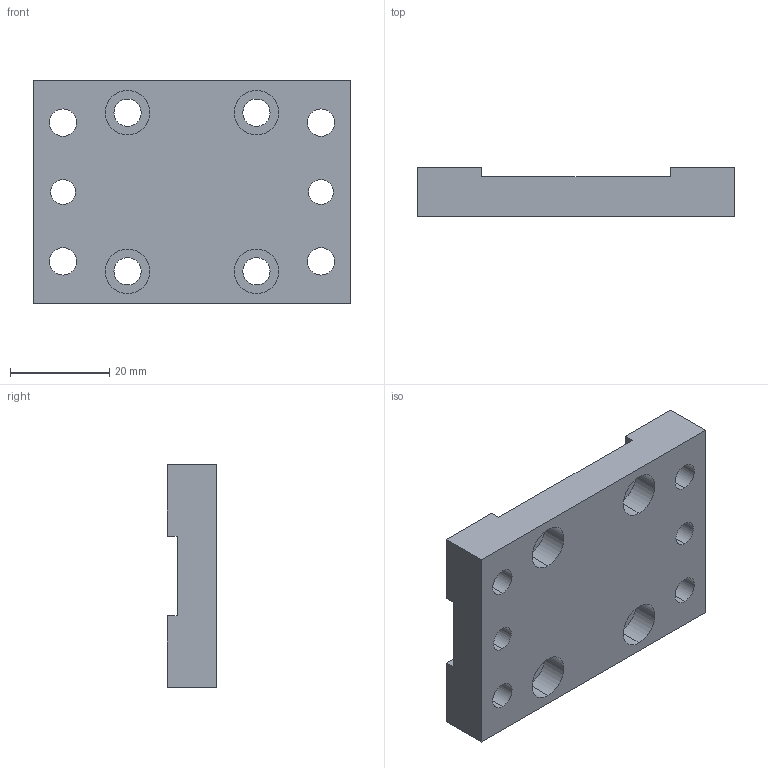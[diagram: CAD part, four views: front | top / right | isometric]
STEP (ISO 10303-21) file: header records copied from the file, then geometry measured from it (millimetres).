
FILE_DESCRIPTION (( 'STEP AP203' ), '1' );
FILE_NAME ('T25J.step', '2017-02-15T12:26:04', ( '' ), ( '' ), 'SwSTEP 2.0', 'SolidWorks 2012', '' );
FILE_SCHEMA (( 'CONFIG_CONTROL_DESIGN' ));
Length unit declared in the file: millimetre
Products named in the file (1): T25J
Bounding box: 64 x 10 x 45 mm (x, y, z)
Volume: 20798.8 mm3; surface area: 9456.1 mm2
Topology: 1 solids, 1 shells, 62 faces, 156 edges, 104 vertices
Faces by surface type: cylinder 36, plane 26
Entity records: 2009 total; most frequent: DIRECTION 354, CARTESIAN_POINT 323, ORIENTED_EDGE 312, EDGE_CURVE 156, AXIS2_PLACEMENT_3D 135, VERTEX_POINT 104, EDGE_LOOP 90, VECTOR 84
